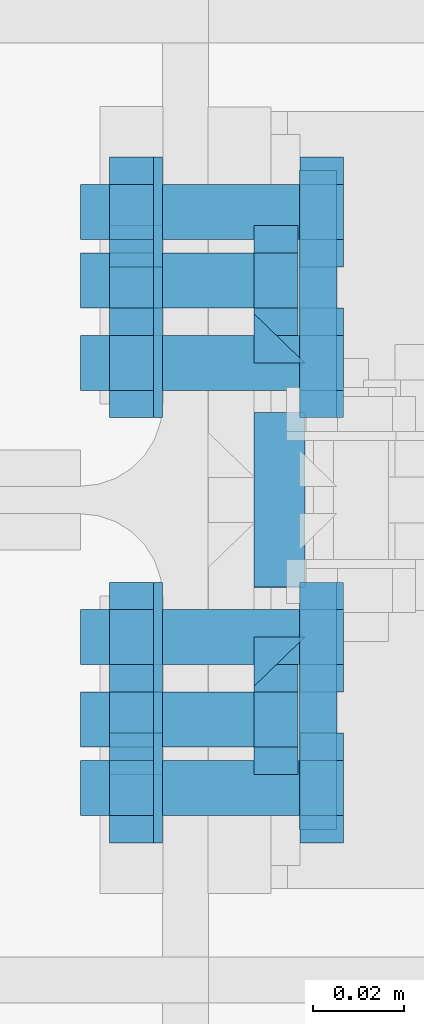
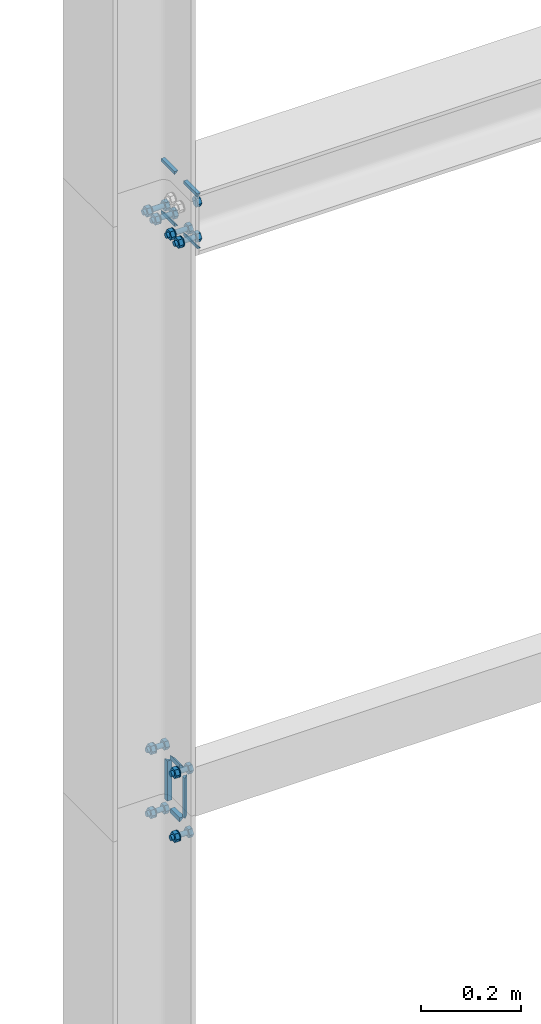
# One storey, part 188 of 251: 33 mechanical fasteners, 16 fasteners.
"""IFC4 building model written with IfcOpenShell, lengths in metres."""

from ifc_helpers import new_model, si_unit, frame, origin_with_axes, place, context, project, spatial, polyline, outline, extrude, type_object, element, save


model = new_model("IFC4")

# Units and contexts
model_context = context("Model", 3, precision=1e-05, world=origin_with_axes())
ifc_project = project(units=[si_unit("LENGTHUNIT", "METRE"), si_unit("AREAUNIT", "SQUARE_METRE"), si_unit("VOLUMEUNIT", "CUBIC_METRE"), si_unit("MASSUNIT", "GRAM", prefix="KILO"), si_unit("TIMEUNIT", "SECOND"), si_unit("PLANEANGLEUNIT", "RADIAN"), si_unit("SOLIDANGLEUNIT", "STERADIAN"), si_unit("THERMODYNAMICTEMPERATUREUNIT", "DEGREE_CELSIUS")], contexts=[model_context])

# Site, building, storey
placement_1 = place(None, origin_with_axes())
site = spatial("IfcSite", under=ifc_project, at=placement_1, Name="Italia", CompositionType="ELEMENT")
building = spatial("IfcBuilding", under=site, at=placement_1, Name="Deposito", CompositionType="ELEMENT")
storey = spatial("IfcBuildingStorey", under=building, at=placement_1, Name="Storey 0", CompositionType="ELEMENT", Elevation=0.0)

# Fasteners
fastener_type_1 = type_object("IfcFastenerType", Name="Collegamenti -005_-006 -008_-007 -013_-014 -016_-015", PredefinedType="WELD")
placement_2 = place(placement_1, origin_with_axes())
fastener_1_placement = place(placement_2, origin_with_axes())
element("IfcFastener", 1, at=fastener_1_placement, inside=storey, type_object=fastener_type_1, Name="Collegamenti -005_-006 -008_-007 -013_-014 -016_-015", context=model_context, shape_type="SweptSolid", body=[
    extrude(outline(polyline([(0.0, 0.0), (0.0111732, -0.0108383), (0.0, -0.0108383), (0.0, 0.0)])), frame((6.15495, 20.0191, 3.07079), z_axis=(0.0, -1.0, 0.0), x_axis=(1.0, 0.0, 0.0)), (0.0, 0.0, 1.0), 0.0381012),
])
fastener_type_2 = type_object("IfcFastenerType", Name="Collegamenti -005_-006 -008_-007 -013_-014 -016_-015", PredefinedType="WELD")
fastener_2_placement = place(placement_2, origin_with_axes())
element("IfcFastener", 2, at=fastener_2_placement, inside=storey, type_object=fastener_type_2, Name="Collegamenti -005_-006 -008_-007 -013_-014 -016_-015", context=model_context, shape_type="SweptSolid", body=[
    extrude(outline(polyline([(0.0, 0.0), (-0.0108376, -0.0111732), (-0.0108376, 0.0), (0.0, 0.0)])), frame((6.15495, 20.0408, 2.95095), z_axis=(0.0, 0.0, 1.0), x_axis=(0.0, 1.0, 0.0)), (0.0, 0.0, 1.0), 0.0980997),
])
fastener_type_3 = type_object("IfcFastenerType", Name="Collegamenti -005_-006 -008_-007 -013_-014 -016_-015", PredefinedType="WELD")
fastener_3_placement = place(placement_2, origin_with_axes())
element("IfcFastener", 3, at=fastener_3_placement, inside=storey, type_object=fastener_type_3, Name="Collegamenti -005_-006 -008_-007 -013_-014 -016_-015", context=model_context, shape_type="SweptSolid", body=[
    extrude(outline(polyline([(0.0, 0.0), (0.0108376, 0.0111732), (0.0108376, 0.0), (0.0, 0.0)])), frame((6.15495, 19.9592, 3.04905), z_axis=(0.0, 0.0, -1.0), x_axis=(0.0, 1.0, 0.0)), (0.0, 0.0, 1.0), 0.0980997),
])
fastener_type_4 = type_object("IfcFastenerType", Name="Collegamenti -005_-006 -008_-007 -013_-014 -016_-015", PredefinedType="WELD")
fastener_4_placement = place(placement_2, origin_with_axes())
element("IfcFastener", 4, at=fastener_4_placement, inside=storey, type_object=fastener_type_4, Name="Collegamenti -005_-006 -008_-007 -013_-014 -016_-015", context=model_context, shape_type="SweptSolid", body=[
    extrude(outline(polyline([(0.0, 0.0), (-0.0111732, 0.0108383), (0.0, 0.0108383), (0.0, 0.0)])), frame((6.15495, 19.9809, 2.92921), z_axis=(0.0, 1.0, 0.0), x_axis=(-1.0, 0.0, 0.0)), (0.0, 0.0, 1.0), 0.0381012),
])
fastener_type_5 = type_object("IfcFastenerType", Name="Collegamenti -005_-006 -008_-007 -013_-014 -016_-015", PredefinedType="WELD")
fastener_5_placement = place(placement_2, origin_with_axes())
element("IfcFastener", 5, at=fastener_5_placement, inside=storey, type_object=fastener_type_5, Name="Collegamenti -005_-006 -008_-007 -013_-014 -016_-015", context=model_context, shape_type="SweptSolid", body=[
    extrude(outline(polyline([(0.0, 0.0), (0.0111732, -0.0108383), (0.0, -0.0108383), (0.0, 0.0)])), frame((6.15495, 20.0191, 3.07079), z_axis=(0.0, -1.0, 0.0), x_axis=(1.0, 0.0, 0.0)), (0.0, 0.0, 1.0), 0.0381012),
])
fastener_type_6 = type_object("IfcFastenerType", Name="Collegamenti -005_-006 -008_-007 -013_-014 -016_-015", PredefinedType="WELD")
fastener_6_placement = place(placement_2, origin_with_axes())
element("IfcFastener", 6, at=fastener_6_placement, inside=storey, type_object=fastener_type_6, Name="Collegamenti -005_-006 -008_-007 -013_-014 -016_-015", context=model_context, shape_type="SweptSolid", body=[
    extrude(outline(polyline([(0.0, 0.0), (-0.0108376, -0.0111732), (-0.0108376, 0.0), (0.0, 0.0)])), frame((6.15495, 20.0408, 2.95095), z_axis=(0.0, 0.0, 1.0), x_axis=(0.0, 1.0, 0.0)), (0.0, 0.0, 1.0), 0.0980997),
])
fastener_type_7 = type_object("IfcFastenerType", Name="Collegamenti -005_-006 -008_-007 -013_-014 -016_-015", PredefinedType="WELD")
fastener_7_placement = place(placement_2, origin_with_axes())
element("IfcFastener", 7, at=fastener_7_placement, inside=storey, type_object=fastener_type_7, Name="Collegamenti -005_-006 -008_-007 -013_-014 -016_-015", context=model_context, shape_type="SweptSolid", body=[
    extrude(outline(polyline([(0.0, 0.0), (0.0108376, 0.0111732), (0.0108376, 0.0), (0.0, 0.0)])), frame((6.15495, 19.9592, 3.04905), z_axis=(0.0, 0.0, -1.0), x_axis=(0.0, 1.0, 0.0)), (0.0, 0.0, 1.0), 0.0980997),
])
fastener_type_8 = type_object("IfcFastenerType", Name="Collegamenti -005_-006 -008_-007 -013_-014 -016_-015", PredefinedType="WELD")
fastener_8_placement = place(placement_2, origin_with_axes())
element("IfcFastener", 8, at=fastener_8_placement, inside=storey, type_object=fastener_type_8, Name="Collegamenti -005_-006 -008_-007 -013_-014 -016_-015", context=model_context, shape_type="SweptSolid", body=[
    extrude(outline(polyline([(0.0, 0.0), (-0.0111732, 0.0108383), (0.0, 0.0108383), (0.0, 0.0)])), frame((6.15495, 19.9809, 2.92921), z_axis=(0.0, 1.0, 0.0), x_axis=(-1.0, 0.0, 0.0)), (0.0, 0.0, 1.0), 0.0381012),
])

# Mechanical fasteners
mechanical_fastener_type_1 = type_object("IfcMechanicalFastenerType", Name="Collegamenti -005_-006 -008_-007 -013_-014 -016_-015", PredefinedType="BOLT")
mechanical_fastener_1_placement = place(placement_2, origin_with_axes())
element("IfcMechanicalFastener", 9, at=mechanical_fastener_1_placement, inside=storey, type_object=mechanical_fastener_type_1, Name="Collegamenti -005_-006 -008_-007 -013_-014 -016_-015", NominalDiameter=0.0119992, context=model_context, shape_type="SweptSolid", body=[
    extrude(outline(polyline([(0.0, 0.0), (-0.012001, 0.0), (-0.0179996, 0.0103922), (-0.012001, 0.0207846), (0.0, 0.0207846), (0.00600052, 0.0103922), (0.0, 0.0)])), frame((6.155, 19.958, 2.91161), z_axis=(1.0, 0.0, 0.0), x_axis=(0.0, 1.0, 0.0)), (0.0, 0.0, 1.0), 0.00959969),
])
mechanical_fastener_type_2 = type_object("IfcMechanicalFastenerType", Name="Collegamenti -005_-006 -008_-007 -013_-014 -016_-015", PredefinedType="BOLT")
mechanical_fastener_2_placement = place(placement_2, origin_with_axes())
element("IfcMechanicalFastener", 10, at=mechanical_fastener_2_placement, inside=storey, type_object=mechanical_fastener_type_2, Name="Collegamenti -005_-006 -008_-007 -013_-014 -016_-015", NominalDiameter=0.012, context=model_context, shape_type="SweptSolid", body=[
    extrude(outline(polyline([(0.0, 0.0), (-0.000204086, -0.00155282), (-0.000804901, -0.00300002), (-0.00175858, -0.00424266), (-0.00300026, -0.00519609), (-0.00444794, -0.00579548), (-0.00600052, -0.00600004), (-0.0075531, -0.00579548), (-0.00900078, -0.00519609), (-0.0102425, -0.00424266), (-0.0111961, -0.00300002), (-0.011797, -0.00155282), (-0.012001, 0.0), (-0.011797, 0.00155282), (-0.0111961, 0.00300002), (-0.0102425, 0.00424266), (-0.00900078, 0.00519609), (-0.0075531, 0.00579548), (-0.00600052, 0.00600004), (-0.00444794, 0.00579548), (-0.00300026, 0.00519609), (-0.00175858, 0.00424266), (-0.000804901, 0.00300002), (-0.000204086, 0.00155282), (0.0, 0.0)])), frame((6.117, 19.958, 2.922), z_axis=(1.0, 0.0, 0.0), x_axis=(0.0, 1.0, 0.0)), (0.0, 0.0, 1.0), 0.0380001),
])
mechanical_fastener_type_3 = type_object("IfcMechanicalFastenerType", Name="Collegamenti -005_-006 -008_-007 -013_-014 -016_-015", PredefinedType="BOLT")
mechanical_fastener_3_placement = place(placement_2, origin_with_axes())
element("IfcMechanicalFastener", 11, at=mechanical_fastener_3_placement, inside=storey, type_object=mechanical_fastener_type_3, Name="Collegamenti -005_-006 -008_-007 -013_-014 -016_-015", NominalDiameter=0.0119992, context=model_context, shape_type="SweptSolid", body=[
    extrude(outline(polyline([(0.0, 0.0), (-0.012001, 0.0), (-0.0179996, 0.0103922), (-0.012001, 0.0207846), (0.0, 0.0207846), (0.00600052, 0.0103922), (0.0, 0.0)])), frame((6.1234, 19.958, 2.91161), z_axis=(1.0, 0.0, 0.0), x_axis=(0.0, 1.0, 0.0)), (0.0, 0.0, 1.0), 0.00959969),
])
mechanical_fastener_type_4 = type_object("IfcMechanicalFastenerType", Name="Collegamenti -005_-006 -008_-007 -013_-014 -016_-015", PredefinedType="BOLT")
mechanical_fastener_4_placement = place(placement_2, origin_with_axes())
element("IfcMechanicalFastener", 12, at=mechanical_fastener_4_placement, inside=storey, type_object=mechanical_fastener_type_4, Name="Collegamenti -005_-006 -008_-007 -013_-014 -016_-015", NominalDiameter=0.024, context=model_context, shape_type="SweptSolid", body=[
    extrude(outline(polyline([(0.0, 0.0), (-0.000408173, -0.00310588), (-0.00160599, -0.00600004), (-0.00351334, -0.00848532), (-0.00599861, -0.0103922), (-0.00889397, -0.0115912), (-0.0119991, -0.0120001), (-0.0151043, -0.0115912), (-0.0179996, -0.0103922), (-0.0204849, -0.00848532), (-0.0223923, -0.00600004), (-0.0235901, -0.00310588), (-0.0239983, 0.0), (-0.0235901, 0.00310588), (-0.0223923, 0.00600004), (-0.0204849, 0.00848532), (-0.0179996, 0.0103922), (-0.0151043, 0.0115912), (-0.0119991, 0.0120001), (-0.00889397, 0.0115912), (-0.00599861, 0.0103922), (-0.00351334, 0.00848532), (-0.00160599, 0.00600004), (-0.000408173, 0.00310588), (0.0, 0.0)])), frame((6.133, 19.964, 2.922), z_axis=(1.0, 0.0, 0.0), x_axis=(0.0, 1.0, 0.0)), (0.0, 0.0, 1.0), 0.00199986),
])
mechanical_fastener_type_5 = type_object("IfcMechanicalFastenerType", Name="Collegamenti -005_-006 -008_-007 -013_-014 -016_-015", PredefinedType="BOLT")
mechanical_fastener_5_placement = place(placement_2, origin_with_axes())
element("IfcMechanicalFastener", 13, at=mechanical_fastener_5_placement, inside=storey, type_object=mechanical_fastener_type_5, Name="Collegamenti -005_-006 -008_-007 -013_-014 -016_-015", NominalDiameter=0.0119992, context=model_context, shape_type="SweptSolid", body=[
    extrude(outline(polyline([(0.0, 0.0), (-0.012001, 0.0), (-0.0180016, 0.0103922), (-0.012001, 0.0207846), (0.0, 0.0207846), (0.00599861, 0.0103922), (0.0, 0.0)])), frame((6.155, 20.054, 2.91161), z_axis=(1.0, 0.0, 0.0), x_axis=(0.0, 1.0, 0.0)), (0.0, 0.0, 1.0), 0.00959969),
])
mechanical_fastener_type_6 = type_object("IfcMechanicalFastenerType", Name="Collegamenti -005_-006 -008_-007 -013_-014 -016_-015", PredefinedType="BOLT")
mechanical_fastener_6_placement = place(placement_2, origin_with_axes())
element("IfcMechanicalFastener", 14, at=mechanical_fastener_6_placement, inside=storey, type_object=mechanical_fastener_type_6, Name="Collegamenti -005_-006 -008_-007 -013_-014 -016_-015", NominalDiameter=0.012, context=model_context, shape_type="SweptSolid", body=[
    extrude(outline(polyline([(0.0, 0.0), (-0.000204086, -0.00155282), (-0.000804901, -0.00300002), (-0.00175858, -0.00424266), (-0.00300026, -0.00519609), (-0.00444794, -0.00579548), (-0.00600052, -0.00600004), (-0.0075531, -0.00579548), (-0.00900078, -0.00519609), (-0.0102425, -0.00424266), (-0.0111961, -0.00300002), (-0.011797, -0.00155282), (-0.012001, 0.0), (-0.011797, 0.00155282), (-0.0111961, 0.00300002), (-0.0102425, 0.00424266), (-0.00900078, 0.00519609), (-0.0075531, 0.00579548), (-0.00600052, 0.00600004), (-0.00444794, 0.00579548), (-0.00300026, 0.00519609), (-0.00175858, 0.00424266), (-0.000804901, 0.00300002), (-0.000204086, 0.00155282), (0.0, 0.0)])), frame((6.117, 20.054, 2.922), z_axis=(1.0, 0.0, 0.0), x_axis=(0.0, 1.0, 0.0)), (0.0, 0.0, 1.0), 0.0380001),
])
mechanical_fastener_type_7 = type_object("IfcMechanicalFastenerType", Name="Collegamenti -005_-006 -008_-007 -013_-014 -016_-015", PredefinedType="BOLT")
mechanical_fastener_7_placement = place(placement_2, origin_with_axes())
element("IfcMechanicalFastener", 15, at=mechanical_fastener_7_placement, inside=storey, type_object=mechanical_fastener_type_7, Name="Collegamenti -005_-006 -008_-007 -013_-014 -016_-015", NominalDiameter=0.0119992, context=model_context, shape_type="SweptSolid", body=[
    extrude(outline(polyline([(0.0, 0.0), (-0.012001, 0.0), (-0.0180016, 0.0103922), (-0.012001, 0.0207846), (0.0, 0.0207846), (0.00599861, 0.0103922), (0.0, 0.0)])), frame((6.1234, 20.054, 2.91161), z_axis=(1.0, 0.0, 0.0), x_axis=(0.0, 1.0, 0.0)), (0.0, 0.0, 1.0), 0.00959969),
])
mechanical_fastener_type_8 = type_object("IfcMechanicalFastenerType", Name="Collegamenti -005_-006 -008_-007 -013_-014 -016_-015", PredefinedType="BOLT")
mechanical_fastener_8_placement = place(placement_2, origin_with_axes())
element("IfcMechanicalFastener", 16, at=mechanical_fastener_8_placement, inside=storey, type_object=mechanical_fastener_type_8, Name="Collegamenti -005_-006 -008_-007 -013_-014 -016_-015", NominalDiameter=0.024, context=model_context, shape_type="SweptSolid", body=[
    extrude(outline(polyline([(0.0, 0.0), (-0.000408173, -0.00310588), (-0.00160599, -0.00600004), (-0.00351334, -0.00848532), (-0.00599861, -0.0103922), (-0.00889397, -0.0115912), (-0.0119991, -0.0120001), (-0.0151043, -0.0115912), (-0.0179996, -0.0103922), (-0.0204849, -0.00848532), (-0.0223923, -0.00600004), (-0.0235901, -0.00310588), (-0.0239983, 0.0), (-0.0235901, 0.00310588), (-0.0223923, 0.00600004), (-0.0204849, 0.00848532), (-0.0179996, 0.0103922), (-0.0151043, 0.0115912), (-0.0119991, 0.0120001), (-0.00889397, 0.0115912), (-0.00599861, 0.0103922), (-0.00351334, 0.00848532), (-0.00160599, 0.00600004), (-0.000408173, 0.00310588), (0.0, 0.0)])), frame((6.133, 20.06, 2.922), z_axis=(1.0, 0.0, 0.0), x_axis=(0.0, 1.0, 0.0)), (0.0, 0.0, 1.0), 0.00199986),
])
mechanical_fastener_type_9 = type_object("IfcMechanicalFastenerType", Name="Collegamenti -005_-006 -008_-007 -013_-014 -016_-015", PredefinedType="BOLT")
mechanical_fastener_9_placement = place(placement_2, origin_with_axes())
element("IfcMechanicalFastener", 17, at=mechanical_fastener_9_placement, inside=storey, type_object=mechanical_fastener_type_9, Name="Collegamenti -005_-006 -008_-007 -013_-014 -016_-015", NominalDiameter=0.0119992, context=model_context, shape_type="SweptSolid", body=[
    extrude(outline(polyline([(0.0, 0.0), (-0.012001, 0.0), (-0.0179996, 0.0103924), (-0.012001, 0.0207846), (0.0, 0.0207846), (0.00600052, 0.0103924), (0.0, 0.0)])), frame((6.155, 19.958, 3.06761), z_axis=(1.0, 0.0, 0.0), x_axis=(0.0, 1.0, 0.0)), (0.0, 0.0, 1.0), 0.00959969),
])
mechanical_fastener_type_10 = type_object("IfcMechanicalFastenerType", Name="Collegamenti -005_-006 -008_-007 -013_-014 -016_-015", PredefinedType="BOLT")
mechanical_fastener_10_placement = place(placement_2, origin_with_axes())
element("IfcMechanicalFastener", 18, at=mechanical_fastener_10_placement, inside=storey, type_object=mechanical_fastener_type_10, Name="Collegamenti -005_-006 -008_-007 -013_-014 -016_-015", NominalDiameter=0.012, context=model_context, shape_type="SweptSolid", body=[
    extrude(outline(polyline([(0.0, 0.0), (-0.000204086, -0.00155282), (-0.000804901, -0.00300002), (-0.00175858, -0.00424266), (-0.00300026, -0.00519609), (-0.00444794, -0.00579548), (-0.00600052, -0.00600004), (-0.0075531, -0.00579548), (-0.00900078, -0.00519609), (-0.0102425, -0.00424266), (-0.0111961, -0.00300002), (-0.011797, -0.00155282), (-0.012001, 0.0), (-0.011797, 0.00155282), (-0.0111961, 0.00300002), (-0.0102425, 0.00424266), (-0.00900078, 0.00519609), (-0.0075531, 0.00579548), (-0.00600052, 0.00600004), (-0.00444794, 0.00579548), (-0.00300026, 0.00519609), (-0.00175858, 0.00424266), (-0.000804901, 0.00300002), (-0.000204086, 0.00155282), (0.0, 0.0)])), frame((6.117, 19.958, 3.078), z_axis=(1.0, 0.0, 0.0), x_axis=(0.0, 1.0, 0.0)), (0.0, 0.0, 1.0), 0.0380001),
])
mechanical_fastener_type_11 = type_object("IfcMechanicalFastenerType", Name="Collegamenti -005_-006 -008_-007 -013_-014 -016_-015", PredefinedType="BOLT")
mechanical_fastener_11_placement = place(placement_2, origin_with_axes())
element("IfcMechanicalFastener", 19, at=mechanical_fastener_11_placement, inside=storey, type_object=mechanical_fastener_type_11, Name="Collegamenti -005_-006 -008_-007 -013_-014 -016_-015", NominalDiameter=0.0119992, context=model_context, shape_type="SweptSolid", body=[
    extrude(outline(polyline([(0.0, 0.0), (-0.012001, 0.0), (-0.0179996, 0.0103924), (-0.012001, 0.0207846), (0.0, 0.0207846), (0.00600052, 0.0103924), (0.0, 0.0)])), frame((6.1234, 19.958, 3.06761), z_axis=(1.0, 0.0, 0.0), x_axis=(0.0, 1.0, 0.0)), (0.0, 0.0, 1.0), 0.00959969),
])
mechanical_fastener_type_12 = type_object("IfcMechanicalFastenerType", Name="Collegamenti -005_-006 -008_-007 -013_-014 -016_-015", PredefinedType="BOLT")
mechanical_fastener_12_placement = place(placement_2, origin_with_axes())
element("IfcMechanicalFastener", 20, at=mechanical_fastener_12_placement, inside=storey, type_object=mechanical_fastener_type_12, Name="Collegamenti -005_-006 -008_-007 -013_-014 -016_-015", NominalDiameter=0.024, context=model_context, shape_type="SweptSolid", body=[
    extrude(outline(polyline([(0.0, 0.0), (-0.000408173, -0.00310588), (-0.00160599, -0.00600004), (-0.00351334, -0.00848532), (-0.00599861, -0.0103922), (-0.00889397, -0.0115912), (-0.0119991, -0.0120001), (-0.0151043, -0.0115912), (-0.0179996, -0.0103922), (-0.0204849, -0.00848532), (-0.0223923, -0.00600004), (-0.0235901, -0.00310588), (-0.0239983, 0.0), (-0.0235901, 0.00310588), (-0.0223923, 0.00600004), (-0.0204849, 0.00848532), (-0.0179996, 0.0103922), (-0.0151043, 0.0115912), (-0.0119991, 0.0120001), (-0.00889397, 0.0115912), (-0.00599861, 0.0103922), (-0.00351334, 0.00848532), (-0.00160599, 0.00600004), (-0.000408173, 0.00310588), (0.0, 0.0)])), frame((6.133, 19.964, 3.078), z_axis=(1.0, 0.0, 0.0), x_axis=(0.0, 1.0, 0.0)), (0.0, 0.0, 1.0), 0.00199986),
])
mechanical_fastener_type_13 = type_object("IfcMechanicalFastenerType", Name="Collegamenti -005_-006 -008_-007 -013_-014 -016_-015", PredefinedType="BOLT")
mechanical_fastener_13_placement = place(placement_2, origin_with_axes())
element("IfcMechanicalFastener", 21, at=mechanical_fastener_13_placement, inside=storey, type_object=mechanical_fastener_type_13, Name="Collegamenti -005_-006 -008_-007 -013_-014 -016_-015", NominalDiameter=0.0119992, context=model_context, shape_type="SweptSolid", body=[
    extrude(outline(polyline([(0.0, 0.0), (-0.012001, 0.0), (-0.0180016, 0.0103924), (-0.012001, 0.0207846), (0.0, 0.0207846), (0.00599861, 0.0103924), (0.0, 0.0)])), frame((6.155, 20.054, 3.06761), z_axis=(1.0, 0.0, 0.0), x_axis=(0.0, 1.0, 0.0)), (0.0, 0.0, 1.0), 0.00959969),
])
mechanical_fastener_type_14 = type_object("IfcMechanicalFastenerType", Name="Collegamenti -005_-006 -008_-007 -013_-014 -016_-015", PredefinedType="BOLT")
mechanical_fastener_14_placement = place(placement_2, origin_with_axes())
element("IfcMechanicalFastener", 22, at=mechanical_fastener_14_placement, inside=storey, type_object=mechanical_fastener_type_14, Name="Collegamenti -005_-006 -008_-007 -013_-014 -016_-015", NominalDiameter=0.012, context=model_context, shape_type="SweptSolid", body=[
    extrude(outline(polyline([(0.0, 0.0), (-0.000204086, -0.00155282), (-0.000804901, -0.00300002), (-0.00175858, -0.00424266), (-0.00300026, -0.00519609), (-0.00444794, -0.00579548), (-0.00600052, -0.00600004), (-0.0075531, -0.00579548), (-0.00900078, -0.00519609), (-0.0102425, -0.00424266), (-0.0111961, -0.00300002), (-0.011797, -0.00155282), (-0.012001, 0.0), (-0.011797, 0.00155282), (-0.0111961, 0.00300002), (-0.0102425, 0.00424266), (-0.00900078, 0.00519609), (-0.0075531, 0.00579548), (-0.00600052, 0.00600004), (-0.00444794, 0.00579548), (-0.00300026, 0.00519609), (-0.00175858, 0.00424266), (-0.000804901, 0.00300002), (-0.000204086, 0.00155282), (0.0, 0.0)])), frame((6.117, 20.054, 3.078), z_axis=(1.0, 0.0, 0.0), x_axis=(0.0, 1.0, 0.0)), (0.0, 0.0, 1.0), 0.0380001),
])
mechanical_fastener_type_15 = type_object("IfcMechanicalFastenerType", Name="Collegamenti -005_-006 -008_-007 -013_-014 -016_-015", PredefinedType="BOLT")
mechanical_fastener_15_placement = place(placement_2, origin_with_axes())
element("IfcMechanicalFastener", 23, at=mechanical_fastener_15_placement, inside=storey, type_object=mechanical_fastener_type_15, Name="Collegamenti -005_-006 -008_-007 -013_-014 -016_-015", NominalDiameter=0.0119992, context=model_context, shape_type="SweptSolid", body=[
    extrude(outline(polyline([(0.0, 0.0), (-0.012001, 0.0), (-0.0180016, 0.0103924), (-0.012001, 0.0207846), (0.0, 0.0207846), (0.00599861, 0.0103924), (0.0, 0.0)])), frame((6.1234, 20.054, 3.06761), z_axis=(1.0, 0.0, 0.0), x_axis=(0.0, 1.0, 0.0)), (0.0, 0.0, 1.0), 0.00959969),
])
mechanical_fastener_type_16 = type_object("IfcMechanicalFastenerType", Name="Collegamenti -005_-006 -008_-007 -013_-014 -016_-015", PredefinedType="BOLT")
mechanical_fastener_16_placement = place(placement_2, origin_with_axes())
element("IfcMechanicalFastener", 24, at=mechanical_fastener_16_placement, inside=storey, type_object=mechanical_fastener_type_16, Name="Collegamenti -005_-006 -008_-007 -013_-014 -016_-015", NominalDiameter=0.024, context=model_context, shape_type="SweptSolid", body=[
    extrude(outline(polyline([(0.0, 0.0), (-0.000408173, -0.00310588), (-0.00160599, -0.00600004), (-0.00351334, -0.00848532), (-0.00599861, -0.0103922), (-0.00889397, -0.0115912), (-0.0119991, -0.0120001), (-0.0151043, -0.0115912), (-0.0179996, -0.0103922), (-0.0204849, -0.00848532), (-0.0223923, -0.00600004), (-0.0235901, -0.00310588), (-0.0239983, 0.0), (-0.0235901, 0.00310588), (-0.0223923, 0.00600004), (-0.0204849, 0.00848532), (-0.0179996, 0.0103922), (-0.0151043, 0.0115912), (-0.0119991, 0.0120001), (-0.00889397, 0.0115912), (-0.00599861, 0.0103922), (-0.00351334, 0.00848532), (-0.00160599, 0.00600004), (-0.000408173, 0.00310588), (0.0, 0.0)])), frame((6.133, 20.06, 3.078), z_axis=(1.0, 0.0, 0.0), x_axis=(0.0, 1.0, 0.0)), (0.0, 0.0, 1.0), 0.00199986),
])

# Fasteners
fastener_type_9 = type_object("IfcFastenerType", Name="Collegamenti -051_7075 -053_7076", PredefinedType="WELD")
fastener_9_placement = place(placement_2, origin_with_axes())
element("IfcFastener", 25, at=fastener_9_placement, inside=storey, type_object=fastener_type_9, Name="Collegamenti -051_7075 -053_7076", context=model_context, shape_type="SweptSolid", body=[
    extrude(outline(polyline([(0.0, 0.0), (-0.00817347, 0.00792837), (0.0, 0.00792837), (0.0, 0.0)])), frame((6.16495, 20.018, 4.48312), z_axis=(0.0, 1.0, 0.0), x_axis=(-1.0, 0.0, 0.0)), (0.0, 0.0, 1.0), 0.0541),
])
fastener_type_10 = type_object("IfcFastenerType", Name="Collegamenti -051_7075 -053_7076", PredefinedType="WELD")
fastener_10_placement = place(placement_2, origin_with_axes())
element("IfcFastener", 26, at=fastener_10_placement, inside=storey, type_object=fastener_type_10, Name="Collegamenti -051_7075 -053_7076", context=model_context, shape_type="SweptSolid", body=[
    extrude(outline(polyline([(0.0, 0.0), (0.00817347, -0.00792837), (0.0, -0.00792837), (0.0, 0.0)])), frame((6.16495, 20.0721, 4.36488), z_axis=(0.0, -1.0, 0.0), x_axis=(1.0, 0.0, 0.0)), (0.0, 0.0, 1.0), 0.0541),
])
fastener_type_11 = type_object("IfcFastenerType", Name="Collegamenti -051_7075 -053_7076", PredefinedType="WELD")
fastener_11_placement = place(placement_2, origin_with_axes())
element("IfcFastener", 27, at=fastener_11_placement, inside=storey, type_object=fastener_type_11, Name="Collegamenti -051_7075 -053_7076", context=model_context, shape_type="SweptSolid", body=[
    extrude(outline(polyline([(0.0, 0.0), (0.00817347, -0.00792837), (0.0, -0.00792837), (0.0, 0.0)])), frame((6.16495, 19.982, 4.36488), z_axis=(0.0, -1.0, 0.0), x_axis=(1.0, 0.0, 0.0)), (0.0, 0.0, 1.0), 0.0541),
])
fastener_type_12 = type_object("IfcFastenerType", Name="Collegamenti -051_7075 -053_7076", PredefinedType="WELD")
fastener_12_placement = place(placement_2, origin_with_axes())
element("IfcFastener", 28, at=fastener_12_placement, inside=storey, type_object=fastener_type_12, Name="Collegamenti -051_7075 -053_7076", context=model_context, shape_type="SweptSolid", body=[
    extrude(outline(polyline([(0.0, 0.0), (-0.00817347, 0.00792837), (0.0, 0.00792837), (0.0, 0.0)])), frame((6.16495, 19.9279, 4.48312), z_axis=(0.0, 1.0, 0.0), x_axis=(-1.0, 0.0, 0.0)), (0.0, 0.0, 1.0), 0.0541),
])
fastener_type_13 = type_object("IfcFastenerType", Name="Collegamenti -051_7075 -053_7076", PredefinedType="WELD")
fastener_13_placement = place(placement_2, origin_with_axes())
element("IfcFastener", 29, at=fastener_13_placement, inside=storey, type_object=fastener_type_13, Name="Collegamenti -051_7075 -053_7076", context=model_context, shape_type="SweptSolid", body=[
    extrude(outline(polyline([(0.0, 0.0), (-0.00817347, 0.00792837), (0.0, 0.00792837), (0.0, 0.0)])), frame((6.16495, 20.018, 4.48312), z_axis=(0.0, 1.0, 0.0), x_axis=(-1.0, 0.0, 0.0)), (0.0, 0.0, 1.0), 0.0541),
])
fastener_type_14 = type_object("IfcFastenerType", Name="Collegamenti -051_7075 -053_7076", PredefinedType="WELD")
fastener_14_placement = place(placement_2, origin_with_axes())
element("IfcFastener", 30, at=fastener_14_placement, inside=storey, type_object=fastener_type_14, Name="Collegamenti -051_7075 -053_7076", context=model_context, shape_type="SweptSolid", body=[
    extrude(outline(polyline([(0.0, 0.0), (0.00817347, -0.00792837), (0.0, -0.00792837), (0.0, 0.0)])), frame((6.16495, 20.0721, 4.36488), z_axis=(0.0, -1.0, 0.0), x_axis=(1.0, 0.0, 0.0)), (0.0, 0.0, 1.0), 0.0541),
])
fastener_type_15 = type_object("IfcFastenerType", Name="Collegamenti -051_7075 -053_7076", PredefinedType="WELD")
fastener_15_placement = place(placement_2, origin_with_axes())
element("IfcFastener", 31, at=fastener_15_placement, inside=storey, type_object=fastener_type_15, Name="Collegamenti -051_7075 -053_7076", context=model_context, shape_type="SweptSolid", body=[
    extrude(outline(polyline([(0.0, 0.0), (0.00817347, -0.00792837), (0.0, -0.00792837), (0.0, 0.0)])), frame((6.16495, 19.982, 4.36488), z_axis=(0.0, -1.0, 0.0), x_axis=(1.0, 0.0, 0.0)), (0.0, 0.0, 1.0), 0.0541),
])
fastener_type_16 = type_object("IfcFastenerType", Name="Collegamenti -051_7075 -053_7076", PredefinedType="WELD")
fastener_16_placement = place(placement_2, origin_with_axes())
element("IfcFastener", 32, at=fastener_16_placement, inside=storey, type_object=fastener_type_16, Name="Collegamenti -051_7075 -053_7076", context=model_context, shape_type="SweptSolid", body=[
    extrude(outline(polyline([(0.0, 0.0), (-0.00817347, 0.00792837), (0.0, 0.00792837), (0.0, 0.0)])), frame((6.16495, 19.9279, 4.48312), z_axis=(0.0, 1.0, 0.0), x_axis=(-1.0, 0.0, 0.0)), (0.0, 0.0, 1.0), 0.0541),
])

# Mechanical fasteners
mechanical_fastener_type_17 = type_object("IfcMechanicalFastenerType", Name="Collegamenti -051_7075 -053_7076", PredefinedType="BOLT")
mechanical_fastener_17_placement = place(placement_2, origin_with_axes())
element("IfcMechanicalFastener", 33, at=mechanical_fastener_17_placement, inside=storey, type_object=mechanical_fastener_type_17, Name="Collegamenti -051_7075 -053_7076", NominalDiameter=0.0119992, context=model_context, shape_type="SweptSolid", body=[
    extrude(outline(polyline([(0.0, 0.0), (-0.012001, 0.0), (-0.0180016, 0.0103922), (-0.012001, 0.0207849), (0.0, 0.0207849), (0.00599861, 0.0103922), (0.0, 0.0)])), frame((6.165, 19.943, 4.37061), z_axis=(1.0, 0.0, 0.0), x_axis=(0.0, 1.0, 0.0)), (0.0, 0.0, 1.0), 0.00960016),
])
mechanical_fastener_type_18 = type_object("IfcMechanicalFastenerType", Name="Collegamenti -051_7075 -053_7076", PredefinedType="BOLT")
mechanical_fastener_18_placement = place(placement_2, origin_with_axes())
element("IfcMechanicalFastener", 34, at=mechanical_fastener_18_placement, inside=storey, type_object=mechanical_fastener_type_18, Name="Collegamenti -051_7075 -053_7076", NominalDiameter=0.012, context=model_context, shape_type="SweptSolid", body=[
    extrude(outline(polyline([(0.0, 0.0), (-0.000204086, -0.00155306), (-0.000804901, -0.00299978), (-0.00175858, -0.00424242), (-0.00300026, -0.00519609), (-0.00444794, -0.00579548), (-0.00600052, -0.00600004), (-0.0075531, -0.00579548), (-0.00900078, -0.00519609), (-0.0102425, -0.00424242), (-0.0111961, -0.00299978), (-0.011797, -0.00155306), (-0.012001, 0.0), (-0.011797, 0.00155306), (-0.0111961, 0.00299978), (-0.0102425, 0.00424242), (-0.00900078, 0.00519609), (-0.0075531, 0.00579548), (-0.00600052, 0.00600004), (-0.00444794, 0.00579548), (-0.00300026, 0.00519609), (-0.00175858, 0.00424242), (-0.000804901, 0.00299978), (-0.000204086, 0.00155306), (0.0, 0.0)])), frame((6.117, 19.943, 4.381), z_axis=(1.0, 0.0, 0.0), x_axis=(0.0, 1.0, 0.0)), (0.0, 0.0, 1.0), 0.0479999),
])
mechanical_fastener_type_19 = type_object("IfcMechanicalFastenerType", Name="Collegamenti -051_7075 -053_7076", PredefinedType="BOLT")
mechanical_fastener_19_placement = place(placement_2, origin_with_axes())
element("IfcMechanicalFastener", 35, at=mechanical_fastener_19_placement, inside=storey, type_object=mechanical_fastener_type_19, Name="Collegamenti -051_7075 -053_7076", NominalDiameter=0.0119992, context=model_context, shape_type="SweptSolid", body=[
    extrude(outline(polyline([(0.0, 0.0), (-0.012001, 0.0), (-0.0180016, 0.0103922), (-0.012001, 0.0207849), (0.0, 0.0207849), (0.00599861, 0.0103922), (0.0, 0.0)])), frame((6.1234, 19.943, 4.37061), z_axis=(1.0, 0.0, 0.0), x_axis=(0.0, 1.0, 0.0)), (0.0, 0.0, 1.0), 0.00959969),
])
mechanical_fastener_type_20 = type_object("IfcMechanicalFastenerType", Name="Collegamenti -051_7075 -053_7076", PredefinedType="BOLT")
mechanical_fastener_20_placement = place(placement_2, origin_with_axes())
element("IfcMechanicalFastener", 36, at=mechanical_fastener_20_placement, inside=storey, type_object=mechanical_fastener_type_20, Name="Collegamenti -051_7075 -053_7076", NominalDiameter=0.024, context=model_context, shape_type="SweptSolid", body=[
    extrude(outline(polyline([(0.0, 0.0), (-0.000408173, -0.00310564), (-0.00160599, -0.00600004), (-0.00351334, -0.00848532), (-0.00599861, -0.0103922), (-0.00889397, -0.011591), (-0.0119991, -0.0120001), (-0.0151043, -0.011591), (-0.0179996, -0.0103922), (-0.0204849, -0.00848532), (-0.0223923, -0.00600004), (-0.0235901, -0.00310564), (-0.0239983, 0.0), (-0.0235901, 0.00310564), (-0.0223923, 0.00600004), (-0.0204849, 0.00848532), (-0.0179996, 0.0103922), (-0.0151043, 0.011591), (-0.0119991, 0.0120001), (-0.00889397, 0.011591), (-0.00599861, 0.0103922), (-0.00351334, 0.00848532), (-0.00160599, 0.00600004), (-0.000408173, 0.00310564), (0.0, 0.0)])), frame((6.133, 19.949, 4.381), z_axis=(1.0, 0.0, 0.0), x_axis=(0.0, 1.0, 0.0)), (0.0, 0.0, 1.0), 0.00199986),
])
mechanical_fastener_type_21 = type_object("IfcMechanicalFastenerType", Name="Collegamenti -051_7075 -053_7076", PredefinedType="BOLT")
mechanical_fastener_21_placement = place(placement_2, origin_with_axes())
element("IfcMechanicalFastener", 37, at=mechanical_fastener_21_placement, inside=storey, type_object=mechanical_fastener_type_21, Name="Collegamenti -051_7075 -053_7076", NominalDiameter=0.0119991, context=model_context, shape_type="SweptSolid", body=[
    extrude(outline(polyline([(0.0, 0.0), (-0.0119991, 0.0), (-0.0179996, 0.0103922), (-0.0119991, 0.0207849), (0.0, 0.0207849), (0.00600052, 0.0103922), (0.0, 0.0)])), frame((6.165, 19.976, 4.37061), z_axis=(1.0, 0.0, 0.0), x_axis=(0.0, 1.0, 0.0)), (0.0, 0.0, 1.0), 0.00960016),
])
mechanical_fastener_type_22 = type_object("IfcMechanicalFastenerType", Name="Collegamenti -051_7075 -053_7076", PredefinedType="BOLT")
mechanical_fastener_22_placement = place(placement_2, origin_with_axes())
element("IfcMechanicalFastener", 38, at=mechanical_fastener_22_placement, inside=storey, type_object=mechanical_fastener_type_22, Name="Collegamenti -051_7075 -053_7076", NominalDiameter=0.012, context=model_context, shape_type="SweptSolid", body=[
    extrude(outline(polyline([(0.0, 0.0), (-0.000204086, -0.00155306), (-0.000804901, -0.00299978), (-0.00175858, -0.00424242), (-0.00300026, -0.00519609), (-0.00444794, -0.00579548), (-0.00600052, -0.00600004), (-0.0075531, -0.00579548), (-0.00900078, -0.00519609), (-0.0102425, -0.00424242), (-0.0111961, -0.00299978), (-0.011797, -0.00155306), (-0.012001, 0.0), (-0.011797, 0.00155306), (-0.0111961, 0.00299978), (-0.0102425, 0.00424242), (-0.00900078, 0.00519609), (-0.0075531, 0.00579548), (-0.00600052, 0.00600004), (-0.00444794, 0.00579548), (-0.00300026, 0.00519609), (-0.00175858, 0.00424242), (-0.000804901, 0.00299978), (-0.000204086, 0.00155306), (0.0, 0.0)])), frame((6.117, 19.976, 4.381), z_axis=(1.0, 0.0, 0.0), x_axis=(0.0, 1.0, 0.0)), (0.0, 0.0, 1.0), 0.0479999),
])
mechanical_fastener_type_23 = type_object("IfcMechanicalFastenerType", Name="Collegamenti -051_7075 -053_7076", PredefinedType="BOLT")
mechanical_fastener_23_placement = place(placement_2, origin_with_axes())
element("IfcMechanicalFastener", 39, at=mechanical_fastener_23_placement, inside=storey, type_object=mechanical_fastener_type_23, Name="Collegamenti -051_7075 -053_7076", NominalDiameter=0.0119991, context=model_context, shape_type="SweptSolid", body=[
    extrude(outline(polyline([(0.0, 0.0), (-0.0119991, 0.0), (-0.0179996, 0.0103922), (-0.0119991, 0.0207849), (0.0, 0.0207849), (0.00600052, 0.0103922), (0.0, 0.0)])), frame((6.1234, 19.976, 4.37061), z_axis=(1.0, 0.0, 0.0), x_axis=(0.0, 1.0, 0.0)), (0.0, 0.0, 1.0), 0.00959969),
])
mechanical_fastener_type_24 = type_object("IfcMechanicalFastenerType", Name="Collegamenti -051_7075 -053_7076", PredefinedType="BOLT")
mechanical_fastener_24_placement = place(placement_2, origin_with_axes())
element("IfcMechanicalFastener", 40, at=mechanical_fastener_24_placement, inside=storey, type_object=mechanical_fastener_type_24, Name="Collegamenti -051_7075 -053_7076", NominalDiameter=0.024, context=model_context, shape_type="SweptSolid", body=[
    extrude(outline(polyline([(0.0, 0.0), (-0.000408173, -0.00310564), (-0.00160599, -0.00600004), (-0.00351334, -0.00848532), (-0.00599861, -0.0103922), (-0.00889397, -0.011591), (-0.0119991, -0.0120001), (-0.0151043, -0.011591), (-0.0179996, -0.0103922), (-0.0204849, -0.00848532), (-0.0223923, -0.00600004), (-0.0235901, -0.00310564), (-0.0239983, 0.0), (-0.0235901, 0.00310564), (-0.0223923, 0.00600004), (-0.0204849, 0.00848532), (-0.0179996, 0.0103922), (-0.0151043, 0.011591), (-0.0119991, 0.0120001), (-0.00889397, 0.011591), (-0.00599861, 0.0103922), (-0.00351334, 0.00848532), (-0.00160599, 0.00600004), (-0.000408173, 0.00310564), (0.0, 0.0)])), frame((6.133, 19.982, 4.381), z_axis=(1.0, 0.0, 0.0), x_axis=(0.0, 1.0, 0.0)), (0.0, 0.0, 1.0), 0.00199986),
])
mechanical_fastener_type_25 = type_object("IfcMechanicalFastenerType", Name="Collegamenti -051_7075 -053_7076", PredefinedType="BOLT")
mechanical_fastener_25_placement = place(placement_2, origin_with_axes())
element("IfcMechanicalFastener", 41, at=mechanical_fastener_25_placement, inside=storey, type_object=mechanical_fastener_type_25, Name="Collegamenti -051_7075 -053_7076", NominalDiameter=0.0119991, context=model_context, shape_type="SweptSolid", body=[
    extrude(outline(polyline([(0.0, 0.0), (-0.0119991, 0.0), (-0.0179996, 0.0103922), (-0.0119991, 0.0207849), (0.0, 0.0207849), (0.00600052, 0.0103922), (0.0, 0.0)])), frame((6.165, 20.036, 4.37061), z_axis=(1.0, 0.0, 0.0), x_axis=(0.0, 1.0, 0.0)), (0.0, 0.0, 1.0), 0.00960016),
])
mechanical_fastener_type_26 = type_object("IfcMechanicalFastenerType", Name="Collegamenti -051_7075 -053_7076", PredefinedType="BOLT")
mechanical_fastener_26_placement = place(placement_2, origin_with_axes())
element("IfcMechanicalFastener", 42, at=mechanical_fastener_26_placement, inside=storey, type_object=mechanical_fastener_type_26, Name="Collegamenti -051_7075 -053_7076", NominalDiameter=0.012, context=model_context, shape_type="SweptSolid", body=[
    extrude(outline(polyline([(0.0, 0.0), (-0.000204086, -0.00155306), (-0.000804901, -0.00299978), (-0.00175858, -0.00424242), (-0.00300026, -0.00519609), (-0.00444794, -0.00579548), (-0.00600052, -0.00600004), (-0.0075531, -0.00579548), (-0.00900078, -0.00519609), (-0.0102425, -0.00424242), (-0.0111961, -0.00299978), (-0.011797, -0.00155306), (-0.012001, 0.0), (-0.011797, 0.00155306), (-0.0111961, 0.00299978), (-0.0102425, 0.00424242), (-0.00900078, 0.00519609), (-0.0075531, 0.00579548), (-0.00600052, 0.00600004), (-0.00444794, 0.00579548), (-0.00300026, 0.00519609), (-0.00175858, 0.00424242), (-0.000804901, 0.00299978), (-0.000204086, 0.00155306), (0.0, 0.0)])), frame((6.117, 20.036, 4.381), z_axis=(1.0, 0.0, 0.0), x_axis=(0.0, 1.0, 0.0)), (0.0, 0.0, 1.0), 0.0479999),
])
mechanical_fastener_type_27 = type_object("IfcMechanicalFastenerType", Name="Collegamenti -051_7075 -053_7076", PredefinedType="BOLT")
mechanical_fastener_27_placement = place(placement_2, origin_with_axes())
element("IfcMechanicalFastener", 43, at=mechanical_fastener_27_placement, inside=storey, type_object=mechanical_fastener_type_27, Name="Collegamenti -051_7075 -053_7076", NominalDiameter=0.0119991, context=model_context, shape_type="SweptSolid", body=[
    extrude(outline(polyline([(0.0, 0.0), (-0.0119991, 0.0), (-0.0179996, 0.0103922), (-0.0119991, 0.0207849), (0.0, 0.0207849), (0.00600052, 0.0103922), (0.0, 0.0)])), frame((6.1234, 20.036, 4.37061), z_axis=(1.0, 0.0, 0.0), x_axis=(0.0, 1.0, 0.0)), (0.0, 0.0, 1.0), 0.00959969),
])
mechanical_fastener_type_28 = type_object("IfcMechanicalFastenerType", Name="Collegamenti -051_7075 -053_7076", PredefinedType="BOLT")
mechanical_fastener_28_placement = place(placement_2, origin_with_axes())
element("IfcMechanicalFastener", 44, at=mechanical_fastener_28_placement, inside=storey, type_object=mechanical_fastener_type_28, Name="Collegamenti -051_7075 -053_7076", NominalDiameter=0.024, context=model_context, shape_type="SweptSolid", body=[
    extrude(outline(polyline([(0.0, 0.0), (-0.000408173, -0.00310564), (-0.00160599, -0.00600004), (-0.00351334, -0.00848532), (-0.00599861, -0.0103922), (-0.00889397, -0.011591), (-0.0119991, -0.0120001), (-0.0151043, -0.011591), (-0.0179996, -0.0103922), (-0.0204849, -0.00848532), (-0.0223923, -0.00600004), (-0.0235901, -0.00310564), (-0.0239983, 0.0), (-0.0235901, 0.00310564), (-0.0223923, 0.00600004), (-0.0204849, 0.00848532), (-0.0179996, 0.0103922), (-0.0151043, 0.011591), (-0.0119991, 0.0120001), (-0.00889397, 0.011591), (-0.00599861, 0.0103922), (-0.00351334, 0.00848532), (-0.00160599, 0.00600004), (-0.000408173, 0.00310564), (0.0, 0.0)])), frame((6.133, 20.042, 4.381), z_axis=(1.0, 0.0, 0.0), x_axis=(0.0, 1.0, 0.0)), (0.0, 0.0, 1.0), 0.00199986),
])
mechanical_fastener_type_29 = type_object("IfcMechanicalFastenerType", Name="Collegamenti -051_7075 -053_7076", PredefinedType="BOLT")
mechanical_fastener_29_placement = place(placement_2, origin_with_axes())
element("IfcMechanicalFastener", 45, at=mechanical_fastener_29_placement, inside=storey, type_object=mechanical_fastener_type_29, Name="Collegamenti -051_7075 -053_7076", NominalDiameter=0.0119992, context=model_context, shape_type="SweptSolid", body=[
    extrude(outline(polyline([(0.0, 0.0), (-0.012001, 0.0), (-0.0179996, 0.0103922), (-0.012001, 0.0207849), (0.0, 0.0207849), (0.00600052, 0.0103922), (0.0, 0.0)])), frame((6.165, 20.069, 4.37061), z_axis=(1.0, 0.0, 0.0), x_axis=(0.0, 1.0, 0.0)), (0.0, 0.0, 1.0), 0.00960016),
])
mechanical_fastener_type_30 = type_object("IfcMechanicalFastenerType", Name="Collegamenti -051_7075 -053_7076", PredefinedType="BOLT")
mechanical_fastener_30_placement = place(placement_2, origin_with_axes())
element("IfcMechanicalFastener", 46, at=mechanical_fastener_30_placement, inside=storey, type_object=mechanical_fastener_type_30, Name="Collegamenti -051_7075 -053_7076", NominalDiameter=0.012, context=model_context, shape_type="SweptSolid", body=[
    extrude(outline(polyline([(0.0, 0.0), (-0.000204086, -0.00155306), (-0.000804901, -0.00299978), (-0.00175858, -0.00424242), (-0.00300026, -0.00519609), (-0.00444794, -0.00579548), (-0.00600052, -0.00600004), (-0.0075531, -0.00579548), (-0.00900078, -0.00519609), (-0.0102425, -0.00424242), (-0.0111961, -0.00299978), (-0.011797, -0.00155306), (-0.012001, 0.0), (-0.011797, 0.00155306), (-0.0111961, 0.00299978), (-0.0102425, 0.00424242), (-0.00900078, 0.00519609), (-0.0075531, 0.00579548), (-0.00600052, 0.00600004), (-0.00444794, 0.00579548), (-0.00300026, 0.00519609), (-0.00175858, 0.00424242), (-0.000804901, 0.00299978), (-0.000204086, 0.00155306), (0.0, 0.0)])), frame((6.117, 20.069, 4.381), z_axis=(1.0, 0.0, 0.0), x_axis=(0.0, 1.0, 0.0)), (0.0, 0.0, 1.0), 0.0479999),
])
mechanical_fastener_type_31 = type_object("IfcMechanicalFastenerType", Name="Collegamenti -051_7075 -053_7076", PredefinedType="BOLT")
mechanical_fastener_31_placement = place(placement_2, origin_with_axes())
element("IfcMechanicalFastener", 47, at=mechanical_fastener_31_placement, inside=storey, type_object=mechanical_fastener_type_31, Name="Collegamenti -051_7075 -053_7076", NominalDiameter=0.0119992, context=model_context, shape_type="SweptSolid", body=[
    extrude(outline(polyline([(0.0, 0.0), (-0.012001, 0.0), (-0.0179996, 0.0103922), (-0.012001, 0.0207849), (0.0, 0.0207849), (0.00600052, 0.0103922), (0.0, 0.0)])), frame((6.1234, 20.069, 4.37061), z_axis=(1.0, 0.0, 0.0), x_axis=(0.0, 1.0, 0.0)), (0.0, 0.0, 1.0), 0.00959969),
])
mechanical_fastener_type_32 = type_object("IfcMechanicalFastenerType", Name="Collegamenti -051_7075 -053_7076", PredefinedType="BOLT")
mechanical_fastener_32_placement = place(placement_2, origin_with_axes())
element("IfcMechanicalFastener", 48, at=mechanical_fastener_32_placement, inside=storey, type_object=mechanical_fastener_type_32, Name="Collegamenti -051_7075 -053_7076", NominalDiameter=0.024, context=model_context, shape_type="SweptSolid", body=[
    extrude(outline(polyline([(0.0, 0.0), (-0.000408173, -0.00310564), (-0.00160599, -0.00600004), (-0.00351334, -0.00848532), (-0.00599861, -0.0103922), (-0.00889397, -0.011591), (-0.0119991, -0.0120001), (-0.0151043, -0.011591), (-0.0179996, -0.0103922), (-0.0204849, -0.00848532), (-0.0223923, -0.00600004), (-0.0235901, -0.00310564), (-0.0239983, 0.0), (-0.0235901, 0.00310564), (-0.0223923, 0.00600004), (-0.0204849, 0.00848532), (-0.0179996, 0.0103922), (-0.0151043, 0.011591), (-0.0119991, 0.0120001), (-0.00889397, 0.011591), (-0.00599861, 0.0103922), (-0.00351334, 0.00848532), (-0.00160599, 0.00600004), (-0.000408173, 0.00310564), (0.0, 0.0)])), frame((6.133, 20.075, 4.381), z_axis=(1.0, 0.0, 0.0), x_axis=(0.0, 1.0, 0.0)), (0.0, 0.0, 1.0), 0.00199986),
])
mechanical_fastener_type_33 = type_object("IfcMechanicalFastenerType", Name="Collegamenti -051_7075 -053_7076", PredefinedType="BOLT")
mechanical_fastener_33_placement = place(placement_2, origin_with_axes())
element("IfcMechanicalFastener", 49, at=mechanical_fastener_33_placement, inside=storey, type_object=mechanical_fastener_type_33, Name="Collegamenti -051_7075 -053_7076", NominalDiameter=0.0119992, context=model_context, shape_type="SweptSolid", body=[
    extrude(outline(polyline([(0.0, 0.0), (-0.012001, 0.0), (-0.0180016, 0.0103927), (-0.012001, 0.0207849), (0.0, 0.0207849), (0.00599861, 0.0103927), (0.0, 0.0)])), frame((6.165, 19.943, 4.45661), z_axis=(1.0, 0.0, 0.0), x_axis=(0.0, 1.0, 0.0)), (0.0, 0.0, 1.0), 0.00960016),
])

save(model, "model.ifc")
